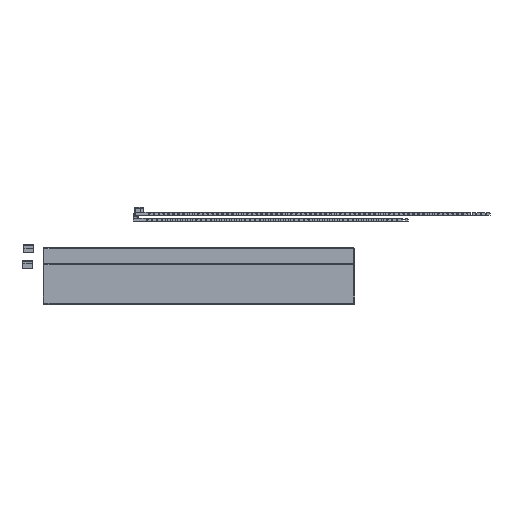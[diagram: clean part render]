
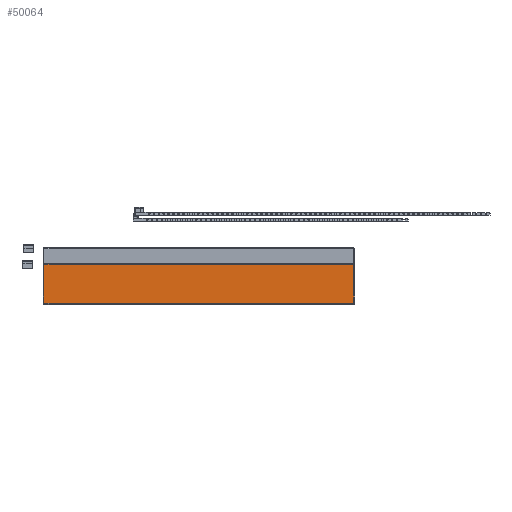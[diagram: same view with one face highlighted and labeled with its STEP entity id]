
A CAD part, front view. The second image highlights one B-rep face of the part: STEP entity #50064.
In plain terms, the highlighted planar face has unit normal (0, -1, 0).
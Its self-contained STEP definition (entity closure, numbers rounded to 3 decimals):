
#2247=PLANE('',#54102);
#4728=FACE_OUTER_BOUND('',#7527,.T.);
#7527=EDGE_LOOP('',(#44277,#44278,#44279,#44280));
#12242=LINE('',#88276,#17520);
#12271=LINE('',#88341,#17549);
#12279=LINE('',#88365,#17557);
#12280=LINE('',#88368,#17558);
#17520=VECTOR('',#65855,10.);
#17549=VECTOR('',#65910,10.);
#17557=VECTOR('',#65936,10.);
#17558=VECTOR('',#65941,10.);
#24141=VERTEX_POINT('',#88262);
#24145=VERTEX_POINT('',#88274);
#24168=VERTEX_POINT('',#88340);
#24175=VERTEX_POINT('',#88364);
#30989=EDGE_CURVE('',#24145,#24141,#12242,.T.);
#31021=EDGE_CURVE('',#24141,#24168,#12271,.T.);
#31033=EDGE_CURVE('',#24168,#24175,#12279,.T.);
#31035=EDGE_CURVE('',#24175,#24145,#12280,.T.);
#44277=ORIENTED_EDGE('',*,*,#31021,.F.);
#44278=ORIENTED_EDGE('',*,*,#30989,.F.);
#44279=ORIENTED_EDGE('',*,*,#31035,.F.);
#44280=ORIENTED_EDGE('',*,*,#31033,.F.);
#50064=ADVANCED_FACE('',(#4728),#2247,.T.);
#54102=AXIS2_PLACEMENT_3D('',#88367,#65939,#65940);
#65855=DIRECTION('',(0.,0.,1.));
#65910=DIRECTION('',(1.,0.,0.));
#65936=DIRECTION('',(0.,0.,-1.));
#65939=DIRECTION('center_axis',(0.,-1.,0.));
#65940=DIRECTION('ref_axis',(0.,0.,-1.));
#65941=DIRECTION('',(-1.,0.,0.));
#88262=CARTESIAN_POINT('',(-77.5,-56.012,24.283));
#88274=CARTESIAN_POINT('',(-77.5,-56.012,0.791));
#88276=CARTESIAN_POINT('',(-77.5,-56.012,17.41));
#88340=CARTESIAN_POINT('',(111.025,-56.012,24.283));
#88341=CARTESIAN_POINT('',(56.2,-56.012,24.283));
#88364=CARTESIAN_POINT('',(111.025,-56.012,0.791));
#88365=CARTESIAN_POINT('',(111.025,-56.012,6.664));
#88367=CARTESIAN_POINT('Origin',(0.875,-56.012,13.037));
#88368=CARTESIAN_POINT('',(-37.563,-56.012,0.791));
